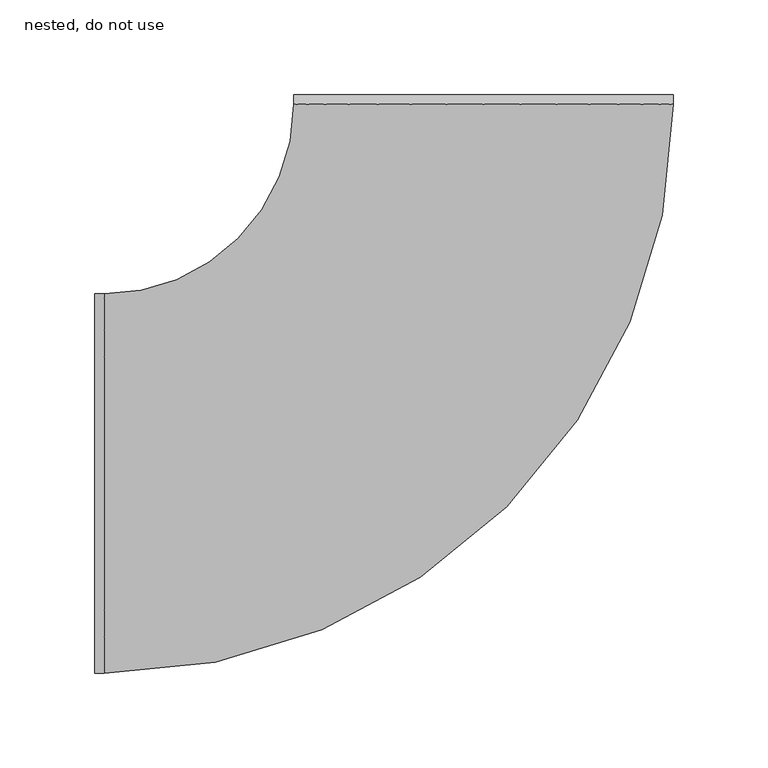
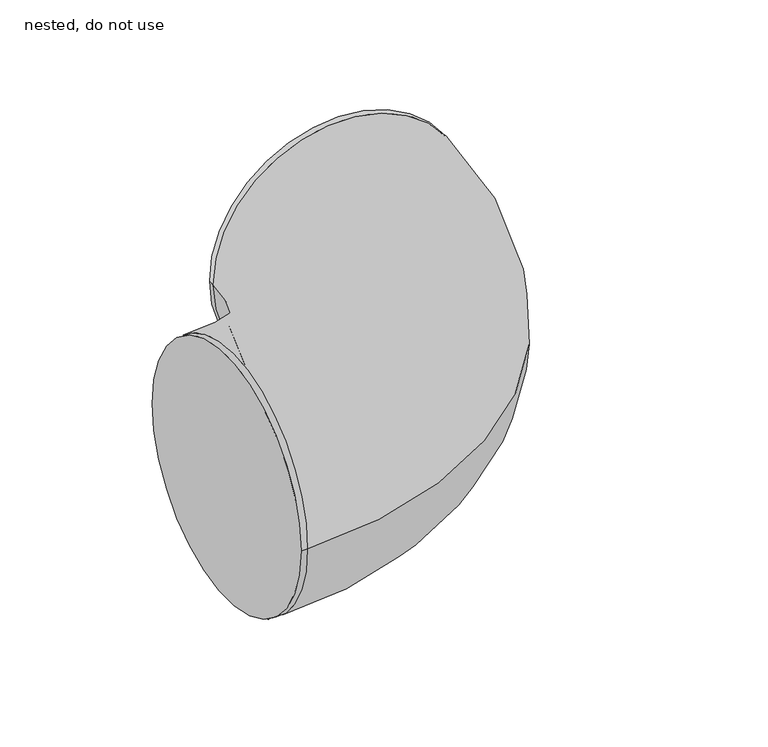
"""IFC4 building model written with IfcOpenShell, lengths in millimetres: pipe fitting geometry, NLRS_52_PIF_UN_HDPE bend for bend assembly -SH_Akatherm : nested, do not use."""

from ifc_helpers import new_model, si_unit, point, frame, origin, place, context, project, spatial, circle_curve, ellipse_curve, trimmed, source, transform, mapped, element, save
from ifc_brep_helpers import plane_surface, cylinder_surface, revolved_surface, advanced_brep


def nested_do_not_use_acc8ecbe(model_context):
    return source(origin(), model_context, "Body", "AdvancedBrep", [
        advanced_brep(
        [(-205.0, -100.0, 0.0), (-205.0, 100.0, 0.0), (-200.0, -100.0, 0.0), (-200.0, 100.0, 0.0), (-100.0, 200.0, 0.0), (100.0, 200.0, 0.0), (100.0, 205.0, 0.0), (-100.0, 205.0, 0.0)],
        [
            (0, 1, circle_curve(frame((-205.0, 0.0, 0.0), z_axis=(-1.0, 0.0, 0.0), x_axis=(0.0, 1.0, 0.0)), 100.0)),
            (1, 0, circle_curve(frame((-205.0, 0.0, 0.0), z_axis=(-1.0, 0.0, 0.0), x_axis=(0.0, 1.0, 0.0)), 100.0)),
            (0, 2),
            (2, 3, circle_curve(frame((-200.0, 0.0, 0.0), z_axis=(-1.0, 0.0, 0.0), x_axis=(0.0, 1.0, 0.0)), 100.0)),
            (3, 1),
            (3, 2, circle_curve(frame((-200.0, 0.0, 0.0), z_axis=(-1.0, 0.0, 0.0), x_axis=(0.0, 1.0, 0.0)), 100.0)),
            (4, 3, circle_curve(frame((-200.0, 200.0, 0.0), z_axis=(0.0, 0.0, -1.0), x_axis=(0.0, -1.0, 0.0)), 100.0)),
            (2, 5, circle_curve(frame((-200.0, 200.0, 0.0), z_axis=(0.0, 0.0, 1.0), x_axis=(0.0, -1.0, 0.0)), 300.0)),
            (5, 4, circle_curve(frame((0.0, 200.0, 0.0), z_axis=(0.0, -1.0, 0.0), x_axis=(-1.0, 0.0, 0.0)), 100.0)),
            (4, 5, circle_curve(frame((0.0, 200.0, 0.0), z_axis=(0.0, -1.0, 0.0), x_axis=(-1.0, 0.0, 0.0)), 100.0)),
            (6, 7, circle_curve(frame((0.0, 205.0, 0.0), z_axis=(0.0, 1.0, 0.0), x_axis=(-1.0, 0.0, 0.0)), 100.0)),
            (7, 6, circle_curve(frame((0.0, 205.0, 0.0), z_axis=(0.0, 1.0, 0.0), x_axis=(-1.0, 0.0, 0.0)), 100.0)),
            (5, 6),
            (7, 4),
        ],
        [
            plane_surface(frame((-205.0, 0.0, 0.0), z_axis=(-1.0, 0.0, 0.0), x_axis=(0.0, 0.0, 1.0))),
            cylinder_surface(frame((-205.0, 0.0, 0.0), z_axis=(-1.0, 0.0, 0.0), x_axis=(0.0, 1.0, 0.0)), 100.0),
            revolved_surface(trimmed(ellipse_curve(frame((-200.0, 0.0, 0.0), z_axis=(-1.0, 0.0, 0.0), x_axis=(0.0, 1.0, 0.0)), 100.0, 100.0), [point((-200.0, -100.0, 0.0))], [point((-200.0, 100.0, 0.0))], True, "CARTESIAN"), (-200.0, 200.0, 0.0), (0.0, 0.0, 1.0)),
            revolved_surface(trimmed(ellipse_curve(frame((-200.0, 0.0, 0.0), z_axis=(-1.0, 0.0, 0.0), x_axis=(0.0, 1.0, 0.0)), 100.0, 100.0), [point((-200.0, 100.0, 0.0))], [point((-200.0, -100.0, 0.0))], True, "CARTESIAN"), (-200.0, 200.0, 0.0), (0.0, 0.0, 1.0)),
            plane_surface(frame((0.0, 205.0, 0.0), z_axis=(0.0, 1.0, 0.0), x_axis=(0.0, 0.0, 1.0))),
            cylinder_surface(frame((0.0, 200.0, 0.0), z_axis=(0.0, -1.0, 0.0), x_axis=(-1.0, 0.0, 0.0)), 100.0),
        ],
        [
            (0, [[1, 2]]),
            (1, [[-1, 3, 4, 5]]),
            (1, [[-2, -5, 6, -3]]),
            (2, [[7, -4, 8, 9]]),
            (3, [[-8, -6, -7, 10]]),
            (4, [[11, 12]]),
            (5, [[-9, 13, -12, 14]]),
            (5, [[-10, -14, -11, -13]]),
        ],
    ),
    ])


if __name__ == "__main__":
    model = new_model("IFC4")
    model_context = context("Model", 3, world=origin())
    ifc_project = project(units=[si_unit("LENGTHUNIT", "METRE", prefix="MILLI")], contexts=[model_context])
    site = spatial("IfcSite", under=ifc_project)
    building = spatial("IfcBuilding", under=site)
    placement = place(None, origin())
    nested_do_not_use_shape = nested_do_not_use_acc8ecbe(model_context)
    element("IfcPipeFitting", 1, ObjectType="NLRS_52_PIF_UN_HDPE bend for bend assembly -SH_Akatherm : nested, do not use", at=placement, inside=building, context=model_context, shape_type="MappedRepresentation", body=[
        mapped(nested_do_not_use_shape, transform((0.0, 0.0, 0.0), x_axis=(1.0, 0.0, 0.0), y_axis=(0.0, 1.0, 0.0), z_axis=(0.0, 0.0, 1.0))),
    ])
    save(model, "model.ifc")
